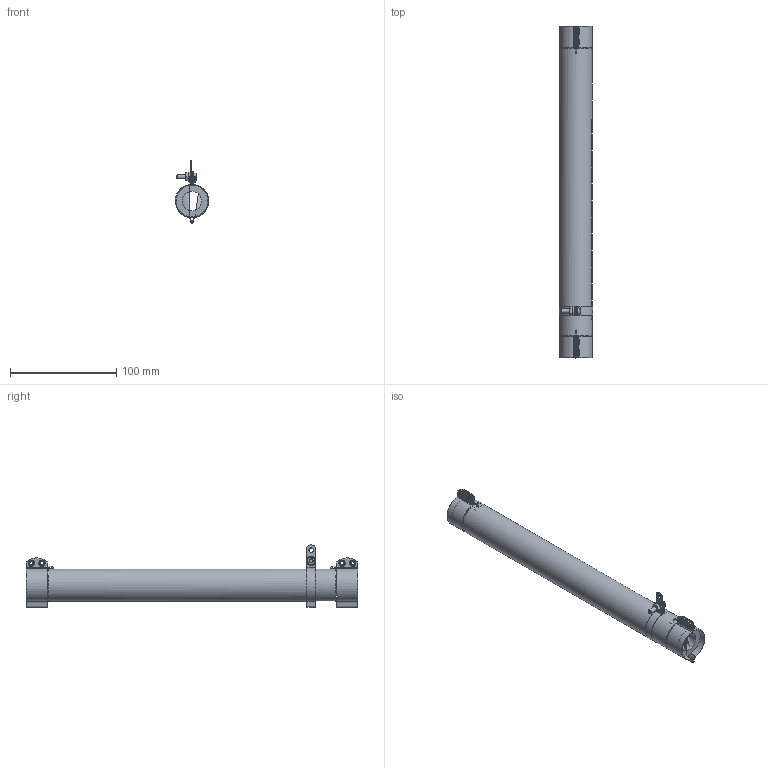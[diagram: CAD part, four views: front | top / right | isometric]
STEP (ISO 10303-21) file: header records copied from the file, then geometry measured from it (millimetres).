
FILE_DESCRIPTION(/* description */ (''),/* implementation_level */ '2;1');
FILE_NAME(/* name */ 'C:\_Vault\Dati\CATALOGO\RC-RS\RC-RS R TF\RSR TF 300.stp',/* time_stamp */ '2014-03-21T09:20:01+01:00',/* author */ ('stefano'),/* organization */ (''),/* preprocessor_version */ 'ST-DEVELOPER v15.2',/* originating_system */ 'Autodesk Inventor 2014',/* authorisation */ '');
FILE_SCHEMA (('AUTOMOTIVE_DESIGN { 1 0 10303 214 3 1 1 }'));
Length unit declared in the file: millimetre
Products named in the file (1): RSR TF 300
Bounding box: 31.57 x 312 x 58.36 mm (x, y, z)
Volume: 144197.3 mm3; surface area: 55803.3 mm2
Topology: 1 solids, 6 shells, 922 faces, 2642 edges, 1751 vertices
Faces by surface type: plane 678, cylinder 195, torus 20, cone 17, bspline 12
Full cylindrical faces by diameter (mm): 0.4 x2, 0.8 x4, 3.2 x4, 3.571 x1, 4 x2, 4.2 x11, 4.3 x1, 6 x8, 9 x1, 18 x1, 30 x3, 31 x1
Entity records: 31649 total; most frequent: CARTESIAN_POINT 6180, DIRECTION 5222, ORIENTED_EDGE 5124, EDGE_CURVE 2562, AXIS2_PLACEMENT_3D 1824, VERTEX_POINT 1732, LINE 1574, VECTOR 1574
